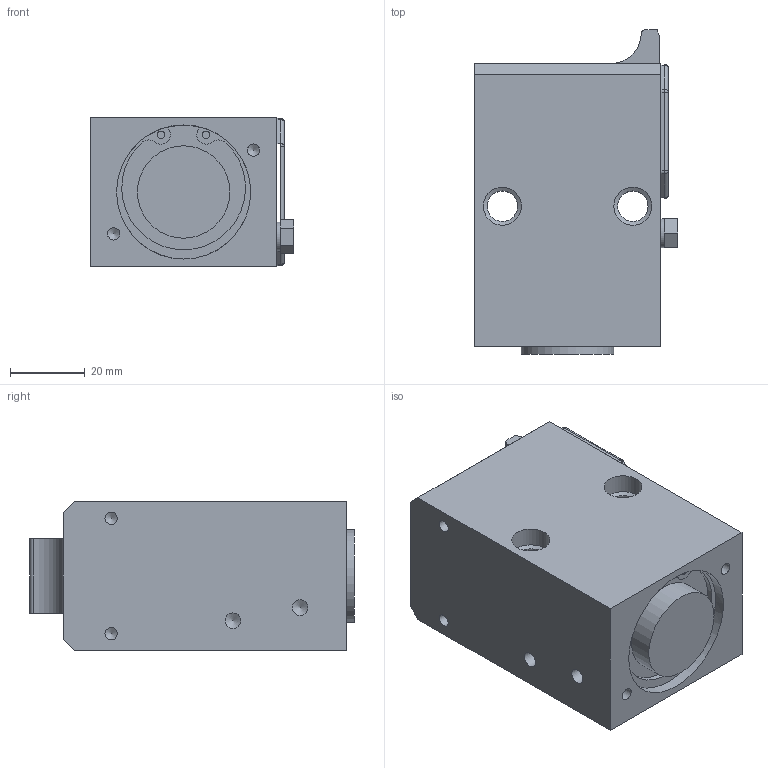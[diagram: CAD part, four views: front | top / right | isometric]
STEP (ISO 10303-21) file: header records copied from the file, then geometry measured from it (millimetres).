
FILE_DESCRIPTION (( 'STEP AP203' ), '1' );
FILE_NAME ('ASU-400-EW-09-L.STEP', '2016-12-22T09:26:49', ( '' ), ( '' ), 'SwSTEP 2.0', 'SolidWorks 2015', '' );
FILE_SCHEMA (( 'CONFIG_CONTROL_DESIGN' ));
Length unit declared in the file: millimetre
Products named in the file (1): ASU-400-EW-09-L
Bounding box: 54.5 x 87 x 40 mm (x, y, z)
Volume: 143552.9 mm3; surface area: 28116.2 mm2
Topology: 1 solids, 4 shells, 465 faces, 1236 edges, 808 vertices
Faces by surface type: plane 222, cylinder 163, bspline 58, cone 14, sphere 8
Full cylindrical faces by diameter (mm): 2 x2, 3.3 x6, 4.2 x4, 5.5 x1, 7.8 x1, 8.2 x2, 10.2 x4, 20 x1, 24.8 x1, 36 x1
Entity records: 17804 total; most frequent: CARTESIAN_POINT 6505, ORIENTED_EDGE 2360, DIRECTION 2215, EDGE_CURVE 1180, VERTEX_POINT 793, AXIS2_PLACEMENT_3D 743, LINE 729, VECTOR 729
